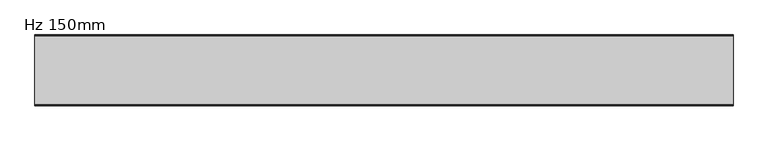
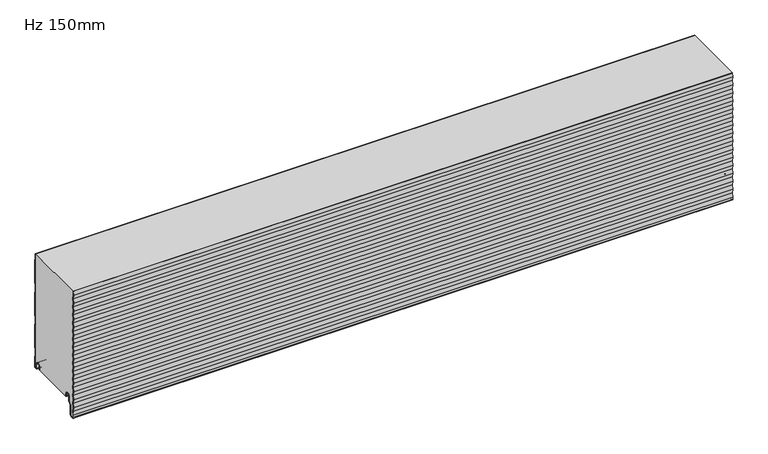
"""IFC4 building model written with IfcOpenShell, lengths in millimetres: plate geometry, KIP-MEX-KSS-1067-R19-CP-Hz-MR_SL : Hz 150mm."""

from ifc_helpers import new_model, si_unit, point, frame, frame_2d, origin, place, context, project, spatial, polyline, circle_curve, trimmed, segment, composite_curve, outline, extrude, source, transform, mapped, element, save
from ifc_brep_helpers import plane_surface, cylinder_surface, revolved_surface, advanced_brep


def hz_150mm_669a072b(model_context):
    return source(origin(), model_context, "Body", "SolidModel", [
        advanced_brep(
        [(-740.0, -17.0015159, 2.0313088), (-740.0, -18.0015191, 1.0313116), (-740.0, -19.0015105, 2.0313088), (-740.0, -19.0015105, 6.0315125), (-740.0, -18.0015159, 6.0315125), (-740.0, -18.0015159, 8.7237223), (-740.0, -14.7015202, 12.023718), (-740.0, -10.301529, 12.023718), (-740.0, -7.0015335, 8.7237225), (-740.0, -7.0015335, -1.6962564), (-740.0, -5.2315393, -3.4662506), (-740.0, -0.9999916, -3.4662506), (-740.0, -0.9999916, 21.034026), (-740.0, -2.2002307, 22.4196686), (-740.0, -2.2002307, 41.7948349), (-740.0, -1.0, 43.1804679), (-740.0, -1.0, 97.2338833), (-740.0, -2.2002307, 98.6195162), (-740.0, -2.2002307, 117.9946825), (-740.0, -1.0, 119.3803155), (-740.0, -1.0, 173.4337309), (-740.0, -2.2002307, 174.8193638), (-740.0, -2.2002307, 194.1945301), (-740.0, -1.0, 195.5801631), (-740.0, -1.0, 249.6335785), (-740.0, -2.2002307, 251.0192114), (-740.0, -2.2002307, 266.0), (-740.0, -1.2002307, 266.0), (-740.0, -1.2002307, 251.3920919), (-740.0, -0.3417885, 250.4010442), (-740.0, 0.0, 249.4844273), (-740.0, 0.0, 195.7293142), (-740.0, -0.3417885, 194.8126973), (-740.0, -1.2002307, 193.8216497), (-740.0, -1.2002307, 175.1922443), (-740.0, -0.3417885, 174.2011966), (-740.0, 0.0, 173.2845797), (-740.0, 0.0, 119.5294666), (-740.0, -0.3417885, 118.6128497), (-740.0, -1.2002307, 117.6218021), (-740.0, -1.2002307, 98.9923967), (-740.0, -0.3417885, 98.001349), (-740.0, 0.0, 97.0847321), (-740.0, 0.0, 43.329619), (-740.0, -0.3417885, 42.4130021), (-740.0, -1.2002307, 41.4219545), (-740.0, -1.2002307, 22.7925491), (-740.0, -0.3417885, 21.8015014), (-740.0, 0.0, 20.8847931), (-740.0, 8.4e-06, -3.0662545), (-740.0, -1.3999878, -4.4662506), (-740.0, -5.2315393, -4.4662506), (-740.0, -8.0015335, -1.6962564), (-740.0, -8.0015335, 8.7237225), (-740.0, -10.301529, 11.023718), (-740.0, -14.7015202, 11.023718), (-740.0, -17.0015159, 8.7237223), (740.0, -17.0015159, 2.0313088), (740.0, -17.0015159, 8.7237223), (740.0, -14.7015202, 11.023718), (740.0, -10.301529, 11.023718), (740.0, -8.0015335, 8.7237225), (740.0, -8.0015335, -1.6962564), (740.0, -5.2315393, -4.4662506), (740.0, -1.3999878, -4.4662506), (740.0, 8.4e-06, -3.0662545), (740.0, 8.4e-06, 20.8848845), (740.0, -0.3417885, 21.8015014), (740.0, -1.2002307, 22.7925491), (740.0, -1.2002307, 41.4219545), (740.0, -0.3417885, 42.4130021), (740.0, 0.0, 43.329619), (740.0, 0.0, 97.0847321), (740.0, -0.3417885, 98.001349), (740.0, -1.2002307, 98.9923967), (740.0, -1.2002307, 117.6218021), (740.0, -0.3417885, 118.6128497), (740.0, 0.0, 119.5294666), (740.0, 0.0, 173.2845797), (740.0, -0.3417885, 174.2011966), (740.0, -1.2002307, 175.1922443), (740.0, -1.2002307, 193.8216497), (740.0, -0.3417885, 194.8126973), (740.0, 0.0, 195.7293142), (740.0, 0.0, 249.4844273), (740.0, -0.3417885, 250.4010442), (740.0, -1.2002307, 251.3920919), (740.0, -1.2002307, 266.0), (740.0, -2.2002307, 266.0), (740.0, -2.2002307, 251.0192114), (740.0, -1.0, 249.6335785), (740.0, -1.0, 195.5801631), (740.0, -2.2002307, 194.1945301), (740.0, -2.2002307, 174.8193638), (740.0, -1.0, 173.4337309), (740.0, -1.0, 119.3803155), (740.0, -2.2002307, 117.9946825), (740.0, -2.2002307, 98.6195162), (740.0, -1.0, 97.2338833), (740.0, -1.0, 43.1804679), (740.0, -2.2002307, 41.7948349), (740.0, -2.2002307, 22.4196686), (740.0, -0.9999916, 21.034026), (740.0, -0.9999916, -3.4662506), (740.0, -5.2315393, -3.4662506), (740.0, -7.0015335, -1.6962564), (740.0, -7.0015335, 8.7237225), (740.0, -10.301529, 12.023718), (740.0, -14.7015202, 12.023718), (740.0, -18.0015159, 8.7237223), (740.0, -18.0015159, 6.0315125), (740.0, -19.0015105, 6.0315125), (740.0, -19.0015105, 2.0313088), (740.0, -18.0015192, 1.0313116)],
        [
            (0, 1, circle_curve(frame((-740.0, -18.0015132, 2.0313088), z_axis=(-1.0, 0.0, 0.0), x_axis=(0.0, 0.0, 1.0)), 0.9999973)),
            (1, 2, circle_curve(frame((-740.0, -18.0015133, 2.0313088), z_axis=(-1.0, 0.0, 0.0), x_axis=(0.0, 0.0, 1.0)), 0.9999972)),
            (2, 3),
            (3, 4),
            (4, 5),
            (5, 6, circle_curve(frame((-740.0, -14.7015202, 8.7237223), z_axis=(-1.0, 0.0, 0.0), x_axis=(0.0, 0.0, 1.0)), 3.2999957)),
            (6, 7),
            (7, 8, circle_curve(frame((-740.0, -10.301529, 8.7237225), z_axis=(-1.0, 0.0, 0.0), x_axis=(0.0, 0.0, 1.0)), 3.2999955)),
            (8, 9),
            (9, 10, circle_curve(frame((-740.0, -5.2315393, -1.6962564), z_axis=(1.0, 0.0, 0.0), x_axis=(0.0, 0.0, 1.0)), 1.7699942)),
            (10, 11),
            (11, 12),
            (12, 13),
            (13, 14),
            (14, 15),
            (15, 16),
            (16, 17),
            (17, 18),
            (18, 19),
            (19, 20),
            (20, 21),
            (21, 22),
            (22, 23),
            (23, 24),
            (24, 25),
            (25, 26),
            (26, 27),
            (27, 28),
            (28, 29),
            (29, 30, circle_curve(frame((-740.0, -1.3999972, 249.4844273), z_axis=(-1.0, 0.0, 0.0), x_axis=(0.0, 0.0, 1.0)), 1.3999972)),
            (30, 31),
            (31, 32, circle_curve(frame((-740.0, -1.3999972, 195.7293142), z_axis=(-1.0, 0.0, 0.0), x_axis=(0.0, 0.0, 1.0)), 1.3999972)),
            (32, 33),
            (33, 34),
            (34, 35),
            (35, 36, circle_curve(frame((-740.0, -1.3999972, 173.2845797), z_axis=(-1.0, 0.0, 0.0), x_axis=(0.0, 0.0, 1.0)), 1.3999972)),
            (36, 37),
            (37, 38, circle_curve(frame((-740.0, -1.3999972, 119.5294666), z_axis=(-1.0, 0.0, 0.0), x_axis=(0.0, 0.0, 1.0)), 1.3999972)),
            (38, 39),
            (39, 40),
            (40, 41),
            (41, 42, circle_curve(frame((-740.0, -1.3999972, 97.0847321), z_axis=(-1.0, 0.0, 0.0), x_axis=(0.0, 0.0, 1.0)), 1.3999972)),
            (42, 43),
            (43, 44, circle_curve(frame((-740.0, -1.3999972, 43.329619), z_axis=(-1.0, 0.0, 0.0), x_axis=(0.0, 0.0, 1.0)), 1.3999972)),
            (44, 45),
            (45, 46),
            (46, 47),
            (47, 48, circle_curve(frame((-740.0, -1.3999972, 20.8848845), z_axis=(-1.0, 0.0, 0.0), x_axis=(0.0, 0.0, 1.0)), 1.3999972)),
            (48, 49),
            (49, 50, circle_curve(frame((-740.0, -1.3999878, -3.0662545), z_axis=(-1.0, 0.0, 0.0), x_axis=(0.0, 0.0, 1.0)), 1.3999962)),
            (50, 51),
            (51, 52, circle_curve(frame((-740.0, -5.2315393, -1.6962564), z_axis=(-1.0, 0.0, 0.0), x_axis=(0.0, 0.0, 1.0)), 2.7699942)),
            (52, 53),
            (53, 54, circle_curve(frame((-740.0, -10.301529, 8.7237225), z_axis=(1.0, 0.0, 0.0), x_axis=(0.0, 0.0, 1.0)), 2.2999955)),
            (54, 55),
            (55, 56, circle_curve(frame((-740.0, -14.7015202, 8.7237223), z_axis=(1.0, 0.0, 0.0), x_axis=(0.0, 0.0, 1.0)), 2.2999957)),
            (56, 0),
            (57, 58),
            (58, 59, circle_curve(frame((740.0, -14.7015202, 8.7237223), z_axis=(-1.0, 0.0, 0.0), x_axis=(0.0, 0.0, 1.0)), 2.2999957)),
            (59, 60),
            (60, 61, circle_curve(frame((740.0, -10.301529, 8.7237225), z_axis=(-1.0, 0.0, 0.0), x_axis=(0.0, 0.0, 1.0)), 2.2999955)),
            (61, 62),
            (62, 63, circle_curve(frame((740.0, -5.2315393, -1.6962564), z_axis=(1.0, 0.0, 0.0), x_axis=(0.0, 0.0, 1.0)), 2.7699942)),
            (63, 64),
            (64, 65, circle_curve(frame((740.0, -1.3999878, -3.0662545), z_axis=(1.0, 0.0, 0.0), x_axis=(0.0, 0.0, 1.0)), 1.3999962)),
            (65, 66),
            (66, 67, circle_curve(frame((740.0, -1.3999972, 20.8848845), z_axis=(1.0, 0.0, 0.0), x_axis=(0.0, 0.0, 1.0)), 1.3999972)),
            (67, 68),
            (68, 69),
            (69, 70),
            (70, 71, circle_curve(frame((740.0, -1.3999972, 43.329619), z_axis=(1.0, 0.0, 0.0), x_axis=(0.0, 0.0, 1.0)), 1.3999972)),
            (71, 72),
            (72, 73, circle_curve(frame((740.0, -1.3999972, 97.0847321), z_axis=(1.0, 0.0, 0.0), x_axis=(0.0, 0.0, 1.0)), 1.3999972)),
            (73, 74),
            (74, 75),
            (75, 76),
            (76, 77, circle_curve(frame((740.0, -1.3999972, 119.5294666), z_axis=(1.0, 0.0, 0.0), x_axis=(0.0, 0.0, 1.0)), 1.3999972)),
            (77, 78),
            (78, 79, circle_curve(frame((740.0, -1.3999972, 173.2845797), z_axis=(1.0, 0.0, 0.0), x_axis=(0.0, 0.0, 1.0)), 1.3999972)),
            (79, 80),
            (80, 81),
            (81, 82),
            (82, 83, circle_curve(frame((740.0, -1.3999972, 195.7293142), z_axis=(1.0, 0.0, 0.0), x_axis=(0.0, 0.0, 1.0)), 1.3999972)),
            (83, 84),
            (84, 85, circle_curve(frame((740.0, -1.3999972, 249.4844273), z_axis=(1.0, 0.0, 0.0), x_axis=(0.0, 0.0, 1.0)), 1.3999972)),
            (85, 86),
            (86, 87),
            (87, 88),
            (88, 89),
            (89, 90),
            (90, 91),
            (91, 92),
            (92, 93),
            (93, 94),
            (94, 95),
            (95, 96),
            (96, 97),
            (97, 98),
            (98, 99),
            (99, 100),
            (100, 101),
            (101, 102),
            (102, 103),
            (103, 104),
            (104, 105, circle_curve(frame((740.0, -5.2315393, -1.6962564), z_axis=(-1.0, 0.0, 0.0), x_axis=(0.0, 0.0, 1.0)), 1.7699942)),
            (105, 106),
            (106, 107, circle_curve(frame((740.0, -10.301529, 8.7237225), z_axis=(1.0, 0.0, 0.0), x_axis=(0.0, 0.0, 1.0)), 3.2999955)),
            (107, 108),
            (108, 109, circle_curve(frame((740.0, -14.7015202, 8.7237223), z_axis=(1.0, 0.0, 0.0), x_axis=(0.0, 0.0, 1.0)), 3.2999957)),
            (109, 110),
            (110, 111),
            (111, 112),
            (112, 113, circle_curve(frame((740.0, -18.0015133, 2.0313088), z_axis=(1.0, 0.0, 0.0), x_axis=(0.0, 0.0, 1.0)), 0.9999972)),
            (113, 57, circle_curve(frame((740.0, -18.0015132, 2.0313088), z_axis=(1.0, 0.0, 0.0), x_axis=(0.0, 0.0, 1.0)), 0.9999973)),
            (56, 58),
            (57, 0),
            (55, 59),
            (54, 60),
            (53, 61),
            (52, 62),
            (51, 63),
            (50, 64),
            (49, 65),
            (48, 66),
            (47, 67),
            (46, 68),
            (45, 69),
            (44, 70),
            (43, 71),
            (42, 72),
            (41, 73),
            (40, 74),
            (39, 75),
            (38, 76),
            (37, 77),
            (36, 78),
            (35, 79),
            (34, 80),
            (33, 81),
            (32, 82),
            (31, 83),
            (30, 84),
            (29, 85),
            (28, 86),
            (27, 87),
            (88, 26),
            (25, 89),
            (24, 90),
            (23, 91),
            (22, 92),
            (21, 93),
            (20, 94),
            (19, 95),
            (18, 96),
            (17, 97),
            (16, 98),
            (15, 99),
            (14, 100),
            (13, 101),
            (12, 102),
            (11, 103),
            (10, 104),
            (9, 105),
            (8, 106),
            (7, 107),
            (6, 108),
            (5, 109),
            (4, 110),
            (3, 111),
            (2, 112),
            (1, 113),
        ],
        [
            plane_surface(frame((-740.0, 0.0, 533.4), z_axis=(-1.0, 0.0, 0.0), x_axis=(0.0, 1.0, 0.0))),
            plane_surface(frame((740.0, 0.0, 533.4), z_axis=(1.0, 0.0, 0.0), x_axis=(0.0, 1.0, 0.0))),
            plane_surface(frame((-740.0, -17.0015159, 2.0313088), z_axis=(0.0, 1.0, 0.0), x_axis=(1.0, 0.0, 0.0))),
            revolved_surface(polyline([(740.0, -14.7015202, 11.023718), (-740.0, -14.7015202, 11.023718)]), (-740.0, -14.7015202, 8.7237223), (1.0, 0.0, 0.0)),
            plane_surface(frame((-740.0, -14.7015202, 11.023718), z_axis=(0.0, 0.0, -1.0), x_axis=(1.0, 0.0, 0.0))),
            revolved_surface(polyline([(740.0, -10.301529, 11.023717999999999), (-740.0, -10.301529, 11.023717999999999)]), (-740.0, -10.301529, 8.7237225), (1.0, 0.0, 0.0)),
            plane_surface(frame((-740.0, -8.0015335, 8.7237225), z_axis=(0.0, -1.0, 0.0), x_axis=(1.0, 0.0, 0.0))),
            cylinder_surface(frame((-740.0, -5.2315393, -1.6962564), z_axis=(-1.0, 0.0, 0.0), x_axis=(0.0, 0.0, 1.0)), 2.7699942),
            plane_surface(frame((-740.0, -5.2315393, -4.4662506), z_axis=(0.0, 0.0, -1.0), x_axis=(1.0, 0.0, 0.0))),
            cylinder_surface(frame((-740.0, -1.3999878, -3.0662545), z_axis=(-1.0, 0.0, 0.0), x_axis=(0.0, 0.0, 1.0)), 1.3999962),
            plane_surface(frame((-740.0, 8.4e-06, -3.0662545), z_axis=(0.0, 1.0, 0.0), x_axis=(1.0, 0.0, 0.0))),
            cylinder_surface(frame((-740.0, -1.3999972, 20.8848845), z_axis=(-1.0, 0.0, 0.0), x_axis=(0.0, 0.0, 1.0)), 1.3999972),
            plane_surface(frame((-740.0, -0.3417885, 21.8015014), z_axis=(0.0, 0.755864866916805, 0.6547276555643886), x_axis=(1.0, 0.0, 0.0))),
            plane_surface(frame((-740.0, -1.2002307, 32.1072518), z_axis=(0.0, 1.0, 0.0), x_axis=(1.0, 0.0, 0.0))),
            plane_surface(frame((-740.0, -1.2002307, 41.4219545), z_axis=(0.0, 0.755864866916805, -0.6547276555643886), x_axis=(1.0, 0.0, 0.0))),
            cylinder_surface(frame((-740.0, -1.3999972, 43.329619), z_axis=(-1.0, 0.0, 0.0), x_axis=(0.0, 0.0, 1.0)), 1.3999972),
            plane_surface(frame((-740.0, 0.0, 43.329619), z_axis=(0.0, 1.0, 0.0), x_axis=(1.0, 0.0, 0.0))),
            cylinder_surface(frame((-740.0, -1.3999972, 97.0847321), z_axis=(-1.0, 0.0, 0.0), x_axis=(0.0, 0.0, 1.0)), 1.3999972),
            plane_surface(frame((-740.0, -0.3417885, 98.001349), z_axis=(0.0, 0.755864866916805, 0.6547276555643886), x_axis=(1.0, 0.0, 0.0))),
            plane_surface(frame((-740.0, -1.2002307, 108.3070994), z_axis=(0.0, 1.0, 0.0), x_axis=(1.0, 0.0, 0.0))),
            plane_surface(frame((-740.0, -1.2002307, 117.6218021), z_axis=(0.0, 0.755864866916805, -0.6547276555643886), x_axis=(1.0, 0.0, 0.0))),
            cylinder_surface(frame((-740.0, -1.3999972, 119.5294666), z_axis=(-1.0, 0.0, 0.0), x_axis=(0.0, 0.0, 1.0)), 1.3999972),
            plane_surface(frame((-740.0, 0.0, 119.5294666), z_axis=(0.0, 1.0, 0.0), x_axis=(1.0, 0.0, 0.0))),
            cylinder_surface(frame((-740.0, -1.3999972, 173.2845797), z_axis=(-1.0, 0.0, 0.0), x_axis=(0.0, 0.0, 1.0)), 1.3999972),
            plane_surface(frame((-740.0, -0.3417885, 174.2011966), z_axis=(0.0, 0.755864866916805, 0.6547276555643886), x_axis=(1.0, 0.0, 0.0))),
            plane_surface(frame((-740.0, -1.2002307, 184.506947), z_axis=(0.0, 1.0, 0.0), x_axis=(1.0, 0.0, 0.0))),
            plane_surface(frame((-740.0, -1.2002307, 193.8216497), z_axis=(0.0, 0.755864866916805, -0.6547276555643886), x_axis=(1.0, 0.0, 0.0))),
            cylinder_surface(frame((-740.0, -1.3999972, 195.7293142), z_axis=(-1.0, 0.0, 0.0), x_axis=(0.0, 0.0, 1.0)), 1.3999972),
            plane_surface(frame((-740.0, 0.0, 195.7293142), z_axis=(0.0, 1.0, 0.0), x_axis=(1.0, 0.0, 0.0))),
            cylinder_surface(frame((-740.0, -1.3999972, 249.4844273), z_axis=(-1.0, 0.0, 0.0), x_axis=(0.0, 0.0, 1.0)), 1.3999972),
            plane_surface(frame((-740.0, -0.3417885, 250.4010442), z_axis=(0.0, 0.755864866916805, 0.6547276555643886), x_axis=(1.0, 0.0, 0.0))),
            plane_surface(frame((-740.0, -1.2002307, 260.7067946), z_axis=(0.0, 1.0, 0.0), x_axis=(1.0, 0.0, 0.0))),
            plane_surface(frame((-740.0, -2.2002307, 270.3943777), z_axis=(0.0, -1.0, 0.0), x_axis=(1.0, 0.0, 0.0))),
            plane_surface(frame((-740.0, -2.2002307, 251.0192114), z_axis=(0.0, -0.755864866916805, -0.6547276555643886), x_axis=(1.0, 0.0, 0.0))),
            plane_surface(frame((-740.0, -1.0, 249.6335785), z_axis=(0.0, -1.0, 0.0), x_axis=(1.0, 0.0, 0.0))),
            plane_surface(frame((-740.0, -1.0, 195.5801631), z_axis=(0.0, -0.755864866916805, 0.6547276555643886), x_axis=(1.0, 0.0, 0.0))),
            plane_surface(frame((-740.0, -2.2002307, 194.1945301), z_axis=(0.0, -1.0, 0.0), x_axis=(1.0, 0.0, 0.0))),
            plane_surface(frame((-740.0, -2.2002307, 174.8193638), z_axis=(0.0, -0.755864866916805, -0.6547276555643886), x_axis=(1.0, 0.0, 0.0))),
            plane_surface(frame((-740.0, -1.0, 173.4337309), z_axis=(0.0, -1.0, 0.0), x_axis=(1.0, 0.0, 0.0))),
            plane_surface(frame((-740.0, -1.0, 119.3803155), z_axis=(0.0, -0.755864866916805, 0.6547276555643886), x_axis=(1.0, 0.0, 0.0))),
            plane_surface(frame((-740.0, -2.2002307, 117.9946825), z_axis=(0.0, -1.0, 0.0), x_axis=(1.0, 0.0, 0.0))),
            plane_surface(frame((-740.0, -2.2002307, 98.6195162), z_axis=(0.0, -0.755864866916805, -0.6547276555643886), x_axis=(1.0, 0.0, 0.0))),
            plane_surface(frame((-740.0, -1.0, 97.2338833), z_axis=(0.0, -1.0, 0.0), x_axis=(1.0, 0.0, 0.0))),
            plane_surface(frame((-740.0, -1.0, 43.1804679), z_axis=(0.0, -0.755864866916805, 0.6547276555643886), x_axis=(1.0, 0.0, 0.0))),
            plane_surface(frame((-740.0, -2.2002307, 41.7948349), z_axis=(0.0, -1.0, 0.0), x_axis=(1.0, 0.0, 0.0))),
            plane_surface(frame((-740.0, -2.2002307, 22.4196686), z_axis=(0.0, -0.755864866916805, -0.6547276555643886), x_axis=(1.0, 0.0, 0.0))),
            plane_surface(frame((-740.0, -0.9999916, 21.034026), z_axis=(0.0, -1.0, 0.0), x_axis=(1.0, 0.0, 0.0))),
            plane_surface(frame((-740.0, -0.9999916, -3.4662506), z_axis=(0.0, 0.0, 1.0), x_axis=(1.0, 0.0, 0.0))),
            revolved_surface(polyline([(740.0, -5.2315393, 0.07373779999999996), (-740.0, -5.2315393, 0.07373779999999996)]), (-740.0, -5.2315393, -1.6962564), (1.0, 0.0, 0.0)),
            plane_surface(frame((-740.0, -7.0015335, -1.6962564), z_axis=(0.0, 1.0, 0.0), x_axis=(1.0, 0.0, 0.0))),
            cylinder_surface(frame((-740.0, -10.301529, 8.7237225), z_axis=(-1.0, 0.0, 0.0), x_axis=(0.0, 0.0, 1.0)), 3.2999955),
            plane_surface(frame((-740.0, -10.301529, 12.023718), z_axis=(0.0, 0.0, 1.0), x_axis=(1.0, 0.0, 0.0))),
            cylinder_surface(frame((-740.0, -14.7015202, 8.7237223), z_axis=(-1.0, 0.0, 0.0), x_axis=(0.0, 0.0, 1.0)), 3.2999957),
            plane_surface(frame((-740.0, -18.0015159, 8.7237223), z_axis=(0.0, -1.0, 0.0), x_axis=(1.0, 0.0, 0.0))),
            plane_surface(frame((-740.0, -18.0015159, 6.0315125), z_axis=(0.0, 0.0, 1.0), x_axis=(1.0, 0.0, 0.0))),
            plane_surface(frame((-740.0, -19.0015105, 6.0315125), z_axis=(0.0, -1.0, 0.0), x_axis=(1.0, 0.0, 0.0))),
            cylinder_surface(frame((-740.0, -18.0015133, 2.0313088), z_axis=(-1.0, 0.0, 0.0), x_axis=(0.0, 0.0, 1.0)), 0.9999972),
            cylinder_surface(frame((-740.0, -18.0015132, 2.0313088), z_axis=(-1.0, 0.0, 0.0), x_axis=(0.0, 0.0, 1.0)), 0.9999973),
            plane_surface(frame((740.0, 10.0, 266.0), z_axis=(0.0, 0.0, 1.0), x_axis=(-1.0, 0.0, 0.0))),
        ],
        [
            (0, [[1, 2, 3, 4, 5, 6, 7, 8, 9, 10, 11, 12, 13, 14, 15, 16, 17, 18, 19, 20, 21, 22, 23, 24, 25, 26, 27, 28, 29, 30, 31, 32, 33, 34, 35, 36, 37, 38, 39, 40, 41, 42, 43, 44, 45, 46, 47, 48, 49, 50, 51, 52, 53, 54, 55, 56, 57]]),
            (1, [[58, 59, 60, 61, 62, 63, 64, 65, 66, 67, 68, 69, 70, 71, 72, 73, 74, 75, 76, 77, 78, 79, 80, 81, 82, 83, 84, 85, 86, 87, 88, 89, 90, 91, 92, 93, 94, 95, 96, 97, 98, 99, 100, 101, 102, 103, 104, 105, 106, 107, 108, 109, 110, 111, 112, 113, 114]]),
            (2, [[115, -58, 116, -57]]),
            (3, [[117, -59, -115, -56]]),
            (4, [[118, -60, -117, -55]]),
            (5, [[119, -61, -118, -54]]),
            (6, [[120, -62, -119, -53]]),
            (7, [[121, -63, -120, -52]]),
            (8, [[122, -64, -121, -51]]),
            (9, [[123, -65, -122, -50]]),
            (10, [[124, -66, -123, -49]]),
            (11, [[125, -67, -124, -48]]),
            (12, [[126, -68, -125, -47]]),
            (13, [[127, -69, -126, -46]]),
            (14, [[128, -70, -127, -45]]),
            (15, [[129, -71, -128, -44]]),
            (16, [[130, -72, -129, -43]]),
            (17, [[131, -73, -130, -42]]),
            (18, [[132, -74, -131, -41]]),
            (19, [[133, -75, -132, -40]]),
            (20, [[134, -76, -133, -39]]),
            (21, [[135, -77, -134, -38]]),
            (22, [[136, -78, -135, -37]]),
            (23, [[137, -79, -136, -36]]),
            (24, [[138, -80, -137, -35]]),
            (25, [[139, -81, -138, -34]]),
            (26, [[140, -82, -139, -33]]),
            (27, [[141, -83, -140, -32]]),
            (28, [[142, -84, -141, -31]]),
            (29, [[143, -85, -142, -30]]),
            (30, [[144, -86, -143, -29]]),
            (31, [[-28, 145, -87, -144]]),
            (32, [[-89, 146, -26, 147]]),
            (33, [[148, -90, -147, -25]]),
            (34, [[149, -91, -148, -24]]),
            (35, [[150, -92, -149, -23]]),
            (36, [[151, -93, -150, -22]]),
            (37, [[152, -94, -151, -21]]),
            (38, [[153, -95, -152, -20]]),
            (39, [[154, -96, -153, -19]]),
            (40, [[155, -97, -154, -18]]),
            (41, [[156, -98, -155, -17]]),
            (42, [[157, -99, -156, -16]]),
            (43, [[158, -100, -157, -15]]),
            (44, [[159, -101, -158, -14]]),
            (45, [[160, -102, -159, -13]]),
            (46, [[161, -103, -160, -12]]),
            (47, [[162, -104, -161, -11]]),
            (48, [[163, -105, -162, -10]]),
            (49, [[164, -106, -163, -9]]),
            (50, [[165, -107, -164, -8]]),
            (51, [[166, -108, -165, -7]]),
            (52, [[167, -109, -166, -6]]),
            (53, [[168, -110, -167, -5]]),
            (54, [[169, -111, -168, -4]]),
            (55, [[170, -112, -169, -3]]),
            (56, [[171, -113, -170, -2]]),
            (57, [[-116, -114, -171, -1]]),
            (58, [[-146, -88, -145, -27]]),
        ],
    ),
        extrude(outline(composite_curve([segment(polyline([(-150.0, -8.9442792), (-148.9411849, 0.5807017), (-150.0, 10.1056827), (-148.9411849, 19.6306636), (-150.0, 29.1556446), (-148.9411849, 38.6806255), (-150.0, 48.2056065), (-148.9411849, 57.7305874), (-150.0, 67.2555684), (-148.9411849, 76.7805493), (-150.0, 86.3055303), (-148.9411849, 95.8305112), (-150.0, 105.3554922), (-148.9411849, 114.8804731), (-150.0, 124.4054541), (-148.9411849, 133.930435), (-150.0, 143.455416), (-148.9411849, 152.9803969), (-150.0, 162.5053779), (-148.9411849, 172.0303588), (-150.0, 181.5553398), (-148.9411849, 191.0803207), (-150.0, 200.6053017), (-148.9411849, 210.1302826), (-150.0, 219.6552636), (-148.9411849, 229.1802445), (-150.0, 238.7052255), (-148.9411849, 248.2302064), (-150.0, 257.7551874), (-149.0834909, 266.0), (-148.0773313, 266.0), (-148.9938405, 257.7551874), (-147.9350254, 248.2302064), (-148.9938405, 238.7052255), (-147.9350254, 229.1802445), (-148.9938405, 219.6552636), (-147.9350254, 210.1302826), (-148.9938405, 200.6053017), (-147.9350254, 191.0803207), (-148.9938405, 181.5553398), (-147.9350254, 172.0303588), (-148.9938405, 162.5053779), (-147.9350254, 152.9803969), (-148.9938405, 143.455416), (-147.9350254, 133.930435), (-148.9938405, 124.4054541), (-147.9350254, 114.8804731), (-148.9938405, 105.3554922), (-147.9350254, 95.8305112), (-148.9938405, 86.3055303), (-147.9350254, 76.7805493), (-148.9938405, 67.2555684), (-147.9350254, 57.7305874), (-148.9938405, 48.2056065), (-147.9350254, 38.6806255), (-148.9938405, 29.1556446), (-147.9350254, 19.6306636), (-148.9938405, 10.1056827), (-147.9350254, 0.5807017), (-148.9938405, -8.9442792), (-147.9350254, -18.4692602), (-148.9722676, -27.800174), (-148.9722676, -32.4501937)]), True, "CONTINUOUS"), segment(trimmed(circle_curve(frame_2d((-146.4022755, -32.4521995)), 2.5699929), [point((-148.9722676, -32.4501937))], [point((-146.1782859, -35.0124127))], True, "CARTESIAN"), True, "CONTINUOUS"), segment(polyline([(-146.1782859, -35.0124127), (-141.1965632, -34.5765685)]), True, "CONTINUOUS"), segment(trimmed(circle_curve(frame_2d((-141.677967, -31.9198392)), 2.6999926), [point((-141.1965632, -34.5765685))], [point((-138.9779744, -31.9198392))], True, "CARTESIAN"), True, "CONTINUOUS"), segment(polyline([(-138.9779744, -31.9198392), (-138.9779744, -10.7773997)]), True, "CONTINUOUS"), segment(trimmed(circle_curve(frame_2d((-136.677977, -10.7773997)), 2.2999974), [point((-138.9779744, -10.7773997))], [point((-138.3043208, -9.1510559))], False, "CARTESIAN"), True, "CONTINUOUS"), segment(polyline([(-138.3043208, -9.1510559), (-133.4759033, -4.3226385)]), True, "CONTINUOUS"), segment(trimmed(circle_curve(frame_2d((-134.677981, -3.1205608)), 1.6999946), [point((-133.4759033, -4.3226385))], [point((-132.9779864, -3.1205608))], True, "CARTESIAN"), True, "CONTINUOUS"), segment(polyline([(-132.9779864, -3.1205608), (-132.9779864, 8.6903283)]), True, "CONTINUOUS"), segment(trimmed(circle_curve(frame_2d((-129.6279911, 8.6903283)), 3.3499953), [point((-132.9779864, 8.6903283))], [point((-129.6279911, 12.0403236))], False, "CARTESIAN"), True, "CONTINUOUS"), segment(polyline([(-129.6279911, 12.0403236), (-125.2279999, 12.0403236)]), True, "CONTINUOUS"), segment(trimmed(circle_curve(frame_2d((-125.2279999, 8.6903283)), 3.3499953), [point((-125.2279999, 12.0403236))], [point((-121.8780046, 8.6903283))], False, "CARTESIAN"), True, "CONTINUOUS"), segment(polyline([(-121.8780046, 8.6903283), (-121.8780046, 5.9912173), (-120.4795257, 5.9912173), (-120.4795257, 2.2328239)]), True, "CONTINUOUS"), segment(trimmed(circle_curve(frame_2d((-121.6795224, 2.2313092)), 1.1999976), [point((-120.4795257, 2.2328239))], [point((-121.6486225, 1.0317095))], False, "CARTESIAN"), True, "CONTINUOUS"), segment(trimmed(circle_curve(frame_2d((-121.6795224, 2.2313092)), 1.1999976), [point((-121.6486225, 1.0317095))], [point((-122.8780046, 2.1710221))], False, "CARTESIAN"), True, "CONTINUOUS"), segment(polyline([(-122.8780046, 2.1710221), (-122.8780046, 8.6903283)]), True, "CONTINUOUS"), segment(trimmed(circle_curve(frame_2d((-125.2279999, 8.6903283)), 2.3499953), [point((-122.8780046, 8.6903283))], [point((-125.2279999, 11.0403236))], True, "CARTESIAN"), True, "CONTINUOUS"), segment(polyline([(-125.2279999, 11.0403236), (-129.6279911, 11.0403236)]), True, "CONTINUOUS"), segment(trimmed(circle_curve(frame_2d((-129.6279911, 8.6903283)), 2.3499953), [point((-129.6279911, 11.0403236))], [point((-131.9779864, 8.6903283))], True, "CARTESIAN"), True, "CONTINUOUS"), segment(polyline([(-131.9779864, 8.6903283), (-131.9779864, -3.1205608)]), True, "CONTINUOUS"), segment(trimmed(circle_curve(frame_2d((-134.677981, -3.1205608)), 2.6999946), [point((-131.9779864, -3.1205608))], [point((-132.7687965, -5.0297453))], False, "CARTESIAN"), True, "CONTINUOUS"), segment(polyline([(-132.7687965, -5.0297453), (-137.597214, -9.8581627)]), True, "CONTINUOUS"), segment(trimmed(circle_curve(frame_2d((-136.677977, -10.7773997)), 1.2999974), [point((-137.597214, -9.8581627))], [point((-137.9779744, -10.7773997))], True, "CARTESIAN"), True, "CONTINUOUS"), segment(polyline([(-137.9779744, -10.7773997), (-137.9779744, -31.9198392)]), True, "CONTINUOUS"), segment(trimmed(circle_curve(frame_2d((-141.677967, -31.9198392)), 3.6999926), [point((-137.9779744, -31.9198392))], [point((-141.0671659, -35.5690675))], False, "CARTESIAN"), True, "CONTINUOUS"), segment(polyline([(-141.0671659, -35.5690675), (-146.0911302, -36.0086074)]), True, "CONTINUOUS"), segment(trimmed(circle_curve(frame_2d((-146.4022755, -32.4521995)), 3.5699929), [point((-146.0911302, -36.0086074))], [point((-149.9722676, -32.4498355))], False, "CARTESIAN"), True, "CONTINUOUS"), segment(polyline([(-149.9722676, -32.4498355), (-149.9722676, -27.7447637), (-148.9411849, -18.4692602), (-150.0, -8.9442792)]), True, "CONTINUOUS")], self_intersect=False)), frame((-740.0, 0.0, 0.0), z_axis=(1.0, 0.0, 0.0), x_axis=(0.0, 1.0, 0.0)), (0.0, 0.0, 1.0), 1480.0),
        extrude(outline(composite_curve([segment(polyline([(-125.2341594, 12.0403236), (-129.6341506, 12.0403236)]), True, "CONTINUOUS"), segment(trimmed(circle_curve(frame_2d((-129.6341506, 8.6903283)), 3.3499953), [point((-129.6341506, 12.0403236))], [point((-132.9841459, 8.6903283))], True, "CARTESIAN"), True, "CONTINUOUS"), segment(polyline([(-132.9841459, 8.6903283), (-132.9841459, -3.1205608)]), True, "CONTINUOUS"), segment(trimmed(circle_curve(frame_2d((-134.6841405, -3.1205608)), 1.6999946), [point((-132.9841459, -3.1205608))], [point((-133.4820628, -4.3226385))], False, "CARTESIAN"), True, "CONTINUOUS"), segment(polyline([(-133.4820628, -4.3226385), (-138.3104803, -9.1510559)]), True, "CONTINUOUS"), segment(trimmed(circle_curve(frame_2d((-136.6841365, -10.7773997)), 2.2999974), [point((-138.3104803, -9.1510559))], [point((-138.9841339, -10.7773997))], True, "CARTESIAN"), True, "CONTINUOUS"), segment(polyline([(-138.9841339, -10.7773997), (-138.9841339, -31.9198392)]), True, "CONTINUOUS"), segment(trimmed(circle_curve(frame_2d((-141.6841265, -31.9198392)), 2.6999926), [point((-138.9841339, -31.9198392))], [point((-141.2027227, -34.5765685))], False, "CARTESIAN"), True, "CONTINUOUS"), segment(polyline([(-141.2027227, -34.5765685), (-146.1844454, -35.0124127)]), True, "CONTINUOUS"), segment(trimmed(circle_curve(frame_2d((-146.4084351, -32.4521995)), 2.5699929), [point((-146.1844454, -35.0124127))], [point((-148.9784271, -32.4501937))], False, "CARTESIAN"), True, "CONTINUOUS"), segment(polyline([(-148.9784271, -32.4501937), (-148.9784271, -27.800174), (-147.9411849, -18.4692602), (-149.0, -8.9442792), (-147.9411849, 0.5807017), (-149.0, 10.1056827), (-147.9411849, 19.6306636), (-149.0, 29.1556446), (-147.9411849, 38.6806255), (-149.0, 48.2056065), (-147.9411849, 57.7305874), (-149.0, 67.2555684), (-147.9411849, 76.7805493), (-149.0, 86.3055303), (-147.9411849, 95.8305112), (-149.0, 105.3554922), (-147.9411849, 114.8804731), (-149.0, 124.4054541), (-147.9411849, 133.930435), (-149.0, 143.455416), (-147.9411849, 152.9803969), (-149.0, 162.5053779), (-147.9411849, 172.0303588), (-149.0, 181.5553398), (-147.9411849, 191.0803207), (-149.0, 200.6053017), (-147.9411849, 210.1302826), (-149.0, 219.6552636), (-147.9411849, 229.1802445), (-149.0, 238.7052255), (-147.9411849, 248.2302064), (-149.0, 257.7551874), (-148.0834909, 266.0), (-2.2002307, 266.0), (-2.2002307, 251.0192115), (-1.0, 249.6335785), (-1.0, 195.5801631), (-2.2002307, 194.1945302), (-2.2002307, 174.8193639), (-1.0, 173.4337309), (-1.0, 119.3803155), (-2.2002307, 117.9946826), (-2.2002307, 98.6195163), (-1.0, 97.2338833), (-1.0, 43.1804679), (-2.2002307, 41.794835), (-2.2002307, 22.4196687), (-0.9999916, 21.034026), (-0.9999916, -3.4662506), (-5.2315389, -3.4662506)]), True, "CONTINUOUS"), segment(trimmed(circle_curve(frame_2d((-5.2315389, -1.6962564)), 1.7699942), [point((-5.2315389, -3.4662506))], [point((-7.0015331, -1.6962564))], False, "CARTESIAN"), True, "CONTINUOUS"), segment(polyline([(-7.0015331, -1.6962564), (-7.0015331, 8.7237222)]), True, "CONTINUOUS"), segment(trimmed(circle_curve(frame_2d((-10.301529, 8.7237222)), 3.2999959), [point((-7.0015331, 8.7237222))], [point((-10.301529, 12.023718))], True, "CARTESIAN"), True, "CONTINUOUS"), segment(polyline([(-10.301529, 12.023718), (-14.7015202, 12.023718)]), True, "CONTINUOUS"), segment(trimmed(circle_curve(frame_2d((-14.7015202, 8.7237223)), 3.2999957), [point((-14.7015202, 12.023718))], [point((-18.0015159, 8.7237223))], True, "CARTESIAN"), True, "CONTINUOUS"), segment(polyline([(-18.0015159, 8.7237223), (-18.0015159, 6.0315125), (-19.0015105, 6.0315125), (-19.0015105, 2.0313089)]), True, "CONTINUOUS"), segment(trimmed(circle_curve(frame_2d((-18.0015133, 2.0313089)), 0.9999972), [point((-19.0015105, 2.0313089))], [point((-18.0015192, 1.0313117))], True, "CARTESIAN"), True, "CONTINUOUS"), segment(polyline([(-18.0015192, 1.0313117), (-19.0328308, 0.0), (-120.6230724, 0.0), (-121.654782, 1.0317095)]), True, "CONTINUOUS"), segment(trimmed(circle_curve(frame_2d((-121.6856819, 2.2313092)), 1.1999976), [point((-121.654782, 1.0317095))], [point((-120.4856852, 2.2328239))], True, "CARTESIAN"), True, "CONTINUOUS"), segment(polyline([(-120.4856852, 2.2328239), (-120.4856852, 5.9912173), (-121.8841641, 5.9912173), (-121.8841641, 8.6903283)]), True, "CONTINUOUS"), segment(trimmed(circle_curve(frame_2d((-125.2341594, 8.6903283)), 3.3499953), [point((-121.8841641, 8.6903283))], [point((-125.2341594, 12.0403236))], True, "CARTESIAN"), True, "CONTINUOUS")], self_intersect=False)), frame((-740.0, 0.0, 0.0), z_axis=(1.0, 0.0, 0.0), x_axis=(0.0, 1.0, 0.0)), (0.0, 0.0, 1.0), 1480.0),
    ])


if __name__ == "__main__":
    model = new_model("IFC4")
    model_context = context("Model", 3, world=origin())
    ifc_project = project(units=[si_unit("LENGTHUNIT", "METRE", prefix="MILLI")], contexts=[model_context])
    site = spatial("IfcSite", under=ifc_project)
    building = spatial("IfcBuilding", under=site)
    placement = place(None, origin())
    hz_150mm_shape = hz_150mm_669a072b(model_context)
    element("IfcPlate", 1, ObjectType="KIP-MEX-KSS-1067-R19-CP-Hz-MR_SL : Hz 150mm", at=placement, inside=building, context=model_context, shape_type="MappedRepresentation", body=[
        mapped(hz_150mm_shape, transform((0.0, 0.0, 0.0), x_axis=(1.0, 0.0, 0.0), y_axis=(0.0, 1.0, 0.0), z_axis=(0.0, 0.0, 1.0))),
    ])
    save(model, "model.ifc")
